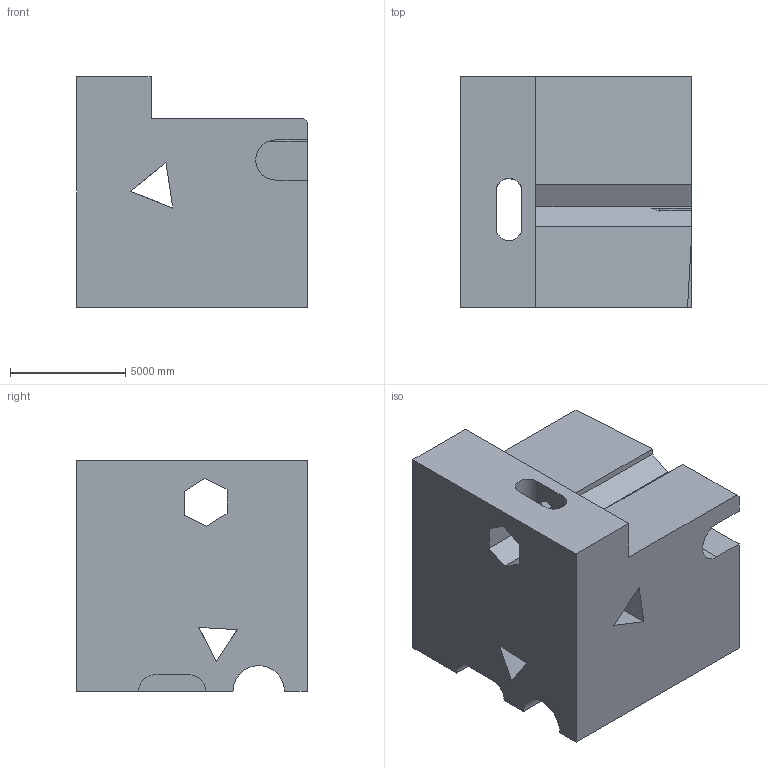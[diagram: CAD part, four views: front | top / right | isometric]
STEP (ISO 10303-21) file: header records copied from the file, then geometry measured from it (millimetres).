
FILE_DESCRIPTION (( 'STEP AP203' ), '1' );
FILE_NAME ('944.STEP', '2022-07-29T14:33:02', ( 'user' ), ( '' ), 'SwSTEP 2.0', 'SolidWorks 2021', '' );
FILE_SCHEMA (( 'CONFIG_CONTROL_DESIGN' ));
Length unit declared in the file: centimetre
Products named in the file (1): 944
Bounding box: 10000 x 10000 x 10000 mm (x, y, z)
Volume: 715768167379.3 mm3; surface area: 802819974.3 mm2
Topology: 1 solids, 1 shells, 61 faces, 204 edges, 136 vertices
Faces by surface type: plane 53, cylinder 8
Entity records: 2450 total; most frequent: CARTESIAN_POINT 605, ORIENTED_EDGE 408, DIRECTION 325, EDGE_CURVE 204, LINE 167, VECTOR 167, VERTEX_POINT 136, AXIS2_PLACEMENT_3D 79
